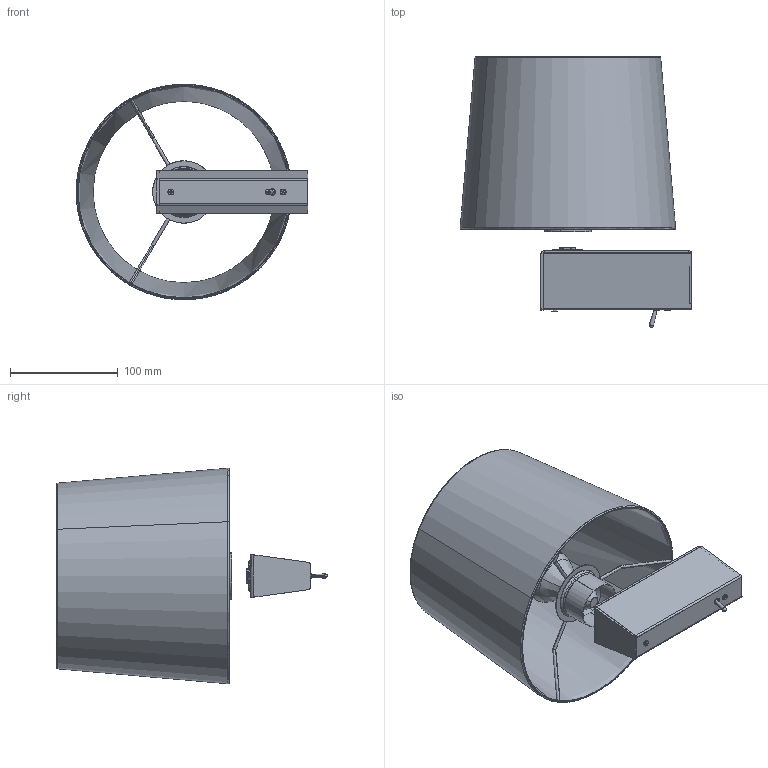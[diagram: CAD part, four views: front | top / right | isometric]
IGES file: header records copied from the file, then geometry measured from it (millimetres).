
Start section: SolidWorks IGES file using analytic representation for surfaces
Global section: file name: Z:\Modele 3D_WWW\_KOLEKCJE_WWW\CHILLIN-8198-8200-8201-8211\CHILLIN-8197-8198-8200-8201-8211.IGS; native system: SolidWorks 2020; preprocessor: SolidWorks 2020; author: gabriela.tworek; date: 210426.105347; units: millimetre
Bounding box: 214.9 x 251.14 x 199.81 mm (x, y, z)
Surface area: 271142.1 mm2 (no closed solid volume)
Topology: 0 solids, 0 shells, 346 faces, 3953 edges, 3940 vertices
Faces by surface type: revolution 173, bspline 173
